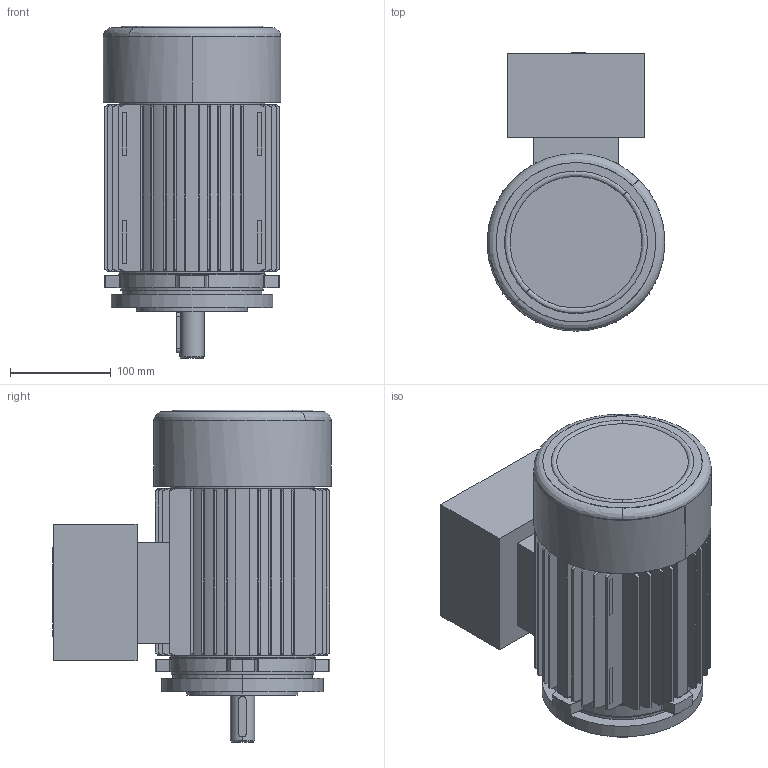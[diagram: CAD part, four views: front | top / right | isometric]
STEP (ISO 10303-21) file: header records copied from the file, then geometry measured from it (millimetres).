
FILE_DESCRIPTION (( 'STEP AP214' ), '1' );
FILE_NAME ('20.17499-D 5AT 90 B14_large Exde STANDK.STEP', '2018-05-08T06:01:46', ( '' ), ( '' ), 'SwSTEP 2.0', 'SolidWorks 2017', '' );
FILE_SCHEMA (( 'AUTOMOTIVE_DESIGN' ));
Length unit declared in the file: millimetre
Products named in the file (1): 20.17499-D 5AT 90 B14_large Exde STANDK
Bounding box: 176 x 276 x 329 mm (x, y, z)
Volume: 3775286.3 mm3; surface area: 689522 mm2
Topology: 4 solids, 4 shells, 682 faces, 1779 edges, 1155 vertices
Faces by surface type: plane 309, cylinder 212, cone 153, bspline 8
Entity records: 21872 total; most frequent: CARTESIAN_POINT 5044, ORIENTED_EDGE 3510, DIRECTION 3479, EDGE_CURVE 1755, AXIS2_PLACEMENT_3D 1286, VERTEX_POINT 1155, VECTOR 907, LINE 907
